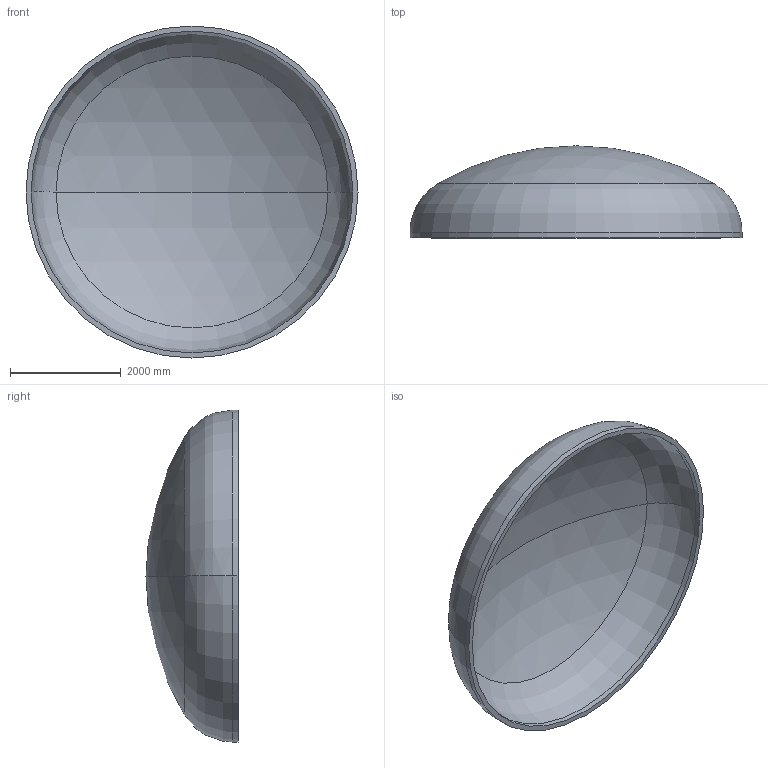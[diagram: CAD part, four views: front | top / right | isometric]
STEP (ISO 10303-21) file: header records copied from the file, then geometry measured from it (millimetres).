
FILE_DESCRIPTION (( 'STEP AP203' ), '1' );
FILE_NAME ('DIN 28013 Korbbogenform_-_Boden DIN 28013 - 6000 x 100 - I - s=92.step', '2016-07-04T10:38:34', ( '' ), ( '' ), 'SwSTEP 2.0', 'SolidWorks 2013', '' );
FILE_SCHEMA (( 'CONFIG_CONTROL_DESIGN' ));
Length unit declared in the file: millimetre
Products named in the file (1): DIN 28013 Korbbogenform_-_Boden DIN 28013 - 6000 x 100 - I - s=92
Bounding box: 6000 x 1662.84 x 6000 mm (x, y, z)
Volume: 3701984518.2 mm3; surface area: 82203189.9 mm2
Topology: 1 solids, 1 shells, 13 faces, 24 edges, 14 vertices
Faces by surface type: torus 4, cylinder 4, sphere 4, plane 1
Entity records: 407 total; most frequent: DIRECTION 72, CARTESIAN_POINT 52, ORIENTED_EDGE 48, AXIS2_PLACEMENT_3D 34, EDGE_CURVE 24, CIRCLE 20, EDGE_LOOP 14, VERTEX_POINT 14
